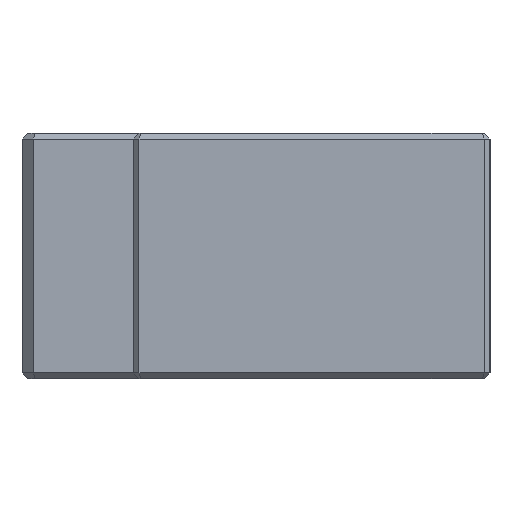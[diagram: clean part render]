
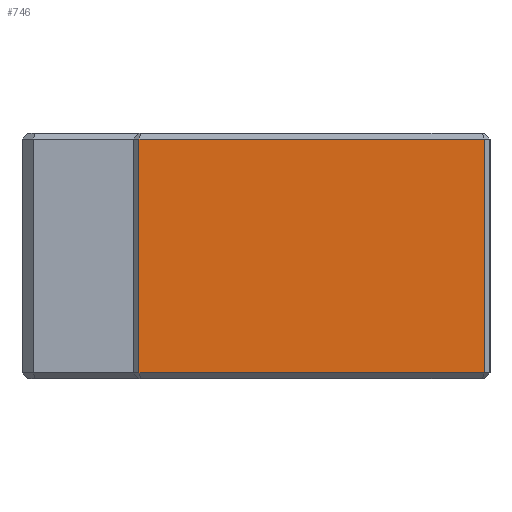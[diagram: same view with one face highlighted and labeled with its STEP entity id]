
A CAD part, left-side view. The second image highlights one B-rep face of the part: STEP entity #746.
In plain terms, the highlighted planar face has unit normal (-1, 0, 0).
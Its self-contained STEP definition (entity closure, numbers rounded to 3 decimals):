
#746=ADVANCED_FACE('NONE',(#1256),#1257,.F.);
#1256=FACE_OUTER_BOUND('',#1681,.T.);
#1257=PLANE('',#1682);
#1681=EDGE_LOOP('',(#2438,#2439,#2440,#2441));
#1682=AXIS2_PLACEMENT_3D('',#2442,#2443,#2444);
#2438=ORIENTED_EDGE('',*,*,#2785,.T.);
#2439=ORIENTED_EDGE('',*,*,#2710,.T.);
#2440=ORIENTED_EDGE('',*,*,#2605,.T.);
#2441=ORIENTED_EDGE('',*,*,#2881,.T.);
#2442=CARTESIAN_POINT('',(0.0,0.0,22.0));
#2443=DIRECTION('',(1.0,0.0,0.0));
#2444=DIRECTION('',(0.0,1.0,0.0));
#2605=EDGE_CURVE('NONE',#2908,#2909,#2910,.T.);
#2710=EDGE_CURVE('NONE',#3079,#2908,#3085,.T.);
#2785=EDGE_CURVE('NONE',#3145,#3079,#3197,.T.);
#2881=EDGE_CURVE('NONE',#2909,#3145,#3316,.T.);
#2908=VERTEX_POINT('NONE',#3343);
#2909=VERTEX_POINT('NONE',#3344);
#2910=LINE('',#3345,#3346);
#3079=VERTEX_POINT('NONE',#3564);
#3085=LINE('',#3573,#3574);
#3145=VERTEX_POINT('NONE',#3647);
#3197=LINE('',#3715,#3716);
#3316=LINE('',#3866,#3867);
#3343=CARTESIAN_POINT('',(0.0,0.5,0.5));
#3344=CARTESIAN_POINT('',(0.0,0.5,21.5));
#3345=CARTESIAN_POINT('',(0.0,0.5,22.0));
#3346=VECTOR('',#3894,1.0);
#3564=CARTESIAN_POINT('',(0.0,31.5,0.5));
#3573=CARTESIAN_POINT('',(0.0,0.5,0.5));
#3574=VECTOR('',#4022,1.0);
#3647=CARTESIAN_POINT('',(0.0,31.5,21.5));
#3715=CARTESIAN_POINT('',(0.0,31.5,22.0));
#3716=VECTOR('',#4118,1.0);
#3866=CARTESIAN_POINT('',(0.0,0.0,21.5));
#3867=VECTOR('',#4213,1.0);
#3894=DIRECTION('',(0.0,0.0,1.0));
#4022=DIRECTION('',(0.0,-1.0,0.0));
#4118=DIRECTION('',(0.0,0.0,-1.0));
#4213=DIRECTION('',(0.0,1.0,0.0));
